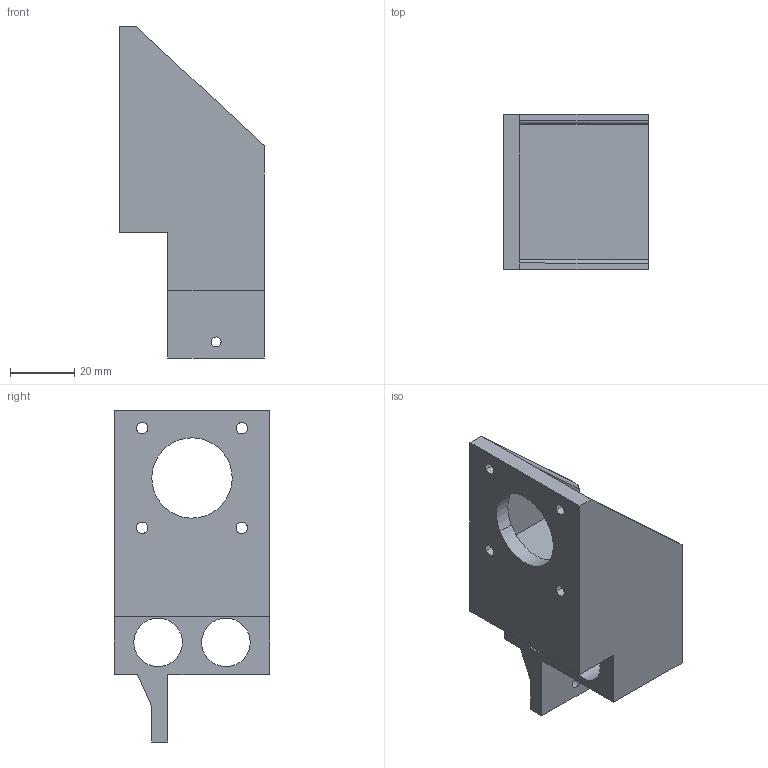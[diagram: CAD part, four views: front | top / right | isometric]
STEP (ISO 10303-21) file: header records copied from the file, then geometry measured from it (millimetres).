
FILE_DESCRIPTION(('CATIA V5 STEP Exchange'),'2;1');
FILE_NAME('C:\Users\user\Documents\Jakob\BAC - Arbeit 1\CAD Modell\CAD-Modell-Step files\stepper mount\stepper mount_2.stp','2018-12-13T14:12:13+00:00',('none'),('none'),'Version 5-6 Release 2012','CATIA V5 STEP AP203','none');
FILE_SCHEMA(('CONFIG_CONTROL_DESIGN'));
Length unit declared in the file: millimetre
Products named in the file (1): stepper mount 2
Bounding box: 45 x 48.3 x 103.3 mm (x, y, z)
Volume: 80108.2 mm3; surface area: 22527.9 mm2
Topology: 1 solids, 1 shells, 44 faces, 123 edges, 82 vertices
Faces by surface type: plane 26, cylinder 18
Entity records: 1435 total; most frequent: CARTESIAN_POINT 272, ORIENTED_EDGE 246, DIRECTION 187, EDGE_CURVE 123, VECTOR 87, LINE 87, VERTEX_POINT 82, AXIS2_PLACEMENT_3D 67
